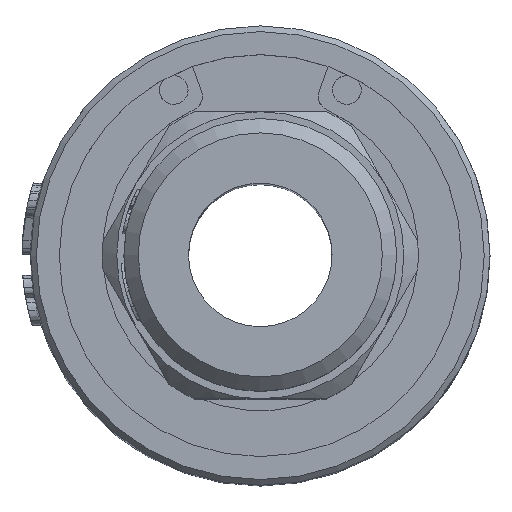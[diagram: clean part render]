
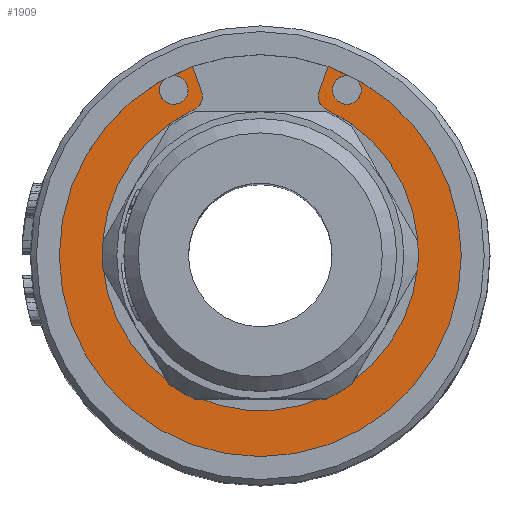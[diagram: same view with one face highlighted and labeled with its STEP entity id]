
A CAD part, top view. The second image highlights one B-rep face of the part: STEP entity #1909.
In plain terms, the highlighted planar face has unit normal (0, 0, 1).
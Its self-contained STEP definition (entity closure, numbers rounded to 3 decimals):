
#216=FACE_BOUND('',#5792,.T.);
#217=FACE_BOUND('',#5793,.T.);
#218=FACE_BOUND('',#5794,.T.);
#381=CIRCLE('',#21061,0.5);
#383=CIRCLE('',#21064,0.5);
#384=CIRCLE('',#21066,5.5);
#385=CIRCLE('',#21067,0.5);
#386=CIRCLE('',#21068,0.5);
#387=CIRCLE('',#21069,7.35);
#388=CIRCLE('',#21070,0.5);
#389=CIRCLE('',#21071,0.5);
#390=CIRCLE('',#21073,7.35);
#391=CIRCLE('',#21075,0.5);
#392=CIRCLE('',#21076,0.5);
#393=CIRCLE('',#21077,7.35);
#394=CIRCLE('',#21078,0.5);
#395=CIRCLE('',#21079,0.5);
#536=ELLIPSE('',#21072,7.35,6.5);
#537=ELLIPSE('',#21074,7.35,6.5);
#808=PLANE('',#21080);
#1095=LINE('',#38990,#3647);
#1096=LINE('',#38998,#3648);
#1097=LINE('',#39010,#3649);
#1098=LINE('',#39018,#3650);
#1909=ADVANCED_FACE('',(#216,#217,#218),#808,.F.);
#3647=VECTOR('',#22865,1.);
#3648=VECTOR('',#22872,1.);
#3649=VECTOR('',#22883,1.);
#3650=VECTOR('',#22890,1.);
#5792=EDGE_LOOP('',(#9783));
#5793=EDGE_LOOP('',(#9784,#9785,#9786,#9787,#9788,#9789,#9790,#9791,#9792,
#9793,#9794,#9795,#9796,#9797,#9798,#9799,#9800,#9801));
#5794=EDGE_LOOP('',(#9802));
#9783=ORIENTED_EDGE('',*,*,#16580,.T.);
#9784=ORIENTED_EDGE('',*,*,#16581,.F.);
#9785=ORIENTED_EDGE('',*,*,#16582,.T.);
#9786=ORIENTED_EDGE('',*,*,#16583,.T.);
#9787=ORIENTED_EDGE('',*,*,#16584,.T.);
#9788=ORIENTED_EDGE('',*,*,#16585,.F.);
#9789=ORIENTED_EDGE('',*,*,#16586,.T.);
#9790=ORIENTED_EDGE('',*,*,#16587,.T.);
#9791=ORIENTED_EDGE('',*,*,#16588,.T.);
#9792=ORIENTED_EDGE('',*,*,#16589,.F.);
#9793=ORIENTED_EDGE('',*,*,#16590,.F.);
#9794=ORIENTED_EDGE('',*,*,#16591,.T.);
#9795=ORIENTED_EDGE('',*,*,#16592,.F.);
#9796=ORIENTED_EDGE('',*,*,#16593,.F.);
#9797=ORIENTED_EDGE('',*,*,#16594,.F.);
#9798=ORIENTED_EDGE('',*,*,#16595,.T.);
#9799=ORIENTED_EDGE('',*,*,#16596,.F.);
#9800=ORIENTED_EDGE('',*,*,#16597,.F.);
#9801=ORIENTED_EDGE('',*,*,#16598,.F.);
#9802=ORIENTED_EDGE('',*,*,#16578,.F.);
#13812=VERTEX_POINT('',#38978);
#13814=VERTEX_POINT('',#38983);
#13815=VERTEX_POINT('',#38986);
#13816=VERTEX_POINT('',#38987);
#13817=VERTEX_POINT('',#38989);
#13818=VERTEX_POINT('',#38991);
#13819=VERTEX_POINT('',#38993);
#13820=VERTEX_POINT('',#38995);
#13821=VERTEX_POINT('',#38997);
#13822=VERTEX_POINT('',#38999);
#13823=VERTEX_POINT('',#39001);
#13824=VERTEX_POINT('',#39003);
#13825=VERTEX_POINT('',#39005);
#13826=VERTEX_POINT('',#39007);
#13827=VERTEX_POINT('',#39009);
#13828=VERTEX_POINT('',#39011);
#13829=VERTEX_POINT('',#39013);
#13830=VERTEX_POINT('',#39015);
#13831=VERTEX_POINT('',#39017);
#13832=VERTEX_POINT('',#39019);
#16578=EDGE_CURVE('',#13812,#13812,#381,.T.);
#16580=EDGE_CURVE('',#13814,#13814,#383,.T.);
#16581=EDGE_CURVE('',#13815,#13816,#384,.T.);
#16582=EDGE_CURVE('',#13815,#13817,#385,.T.);
#16583=EDGE_CURVE('',#13817,#13818,#1095,.T.);
#16584=EDGE_CURVE('',#13818,#13819,#386,.T.);
#16585=EDGE_CURVE('',#13820,#13819,#387,.T.);
#16586=EDGE_CURVE('',#13820,#13821,#388,.T.);
#16587=EDGE_CURVE('',#13821,#13822,#1096,.T.);
#16588=EDGE_CURVE('',#13822,#13823,#389,.T.);
#16589=EDGE_CURVE('',#13824,#13823,#536,.T.);
#16590=EDGE_CURVE('',#13825,#13824,#390,.T.);
#16591=EDGE_CURVE('',#13825,#13826,#537,.T.);
#16592=EDGE_CURVE('',#13827,#13826,#391,.T.);
#16593=EDGE_CURVE('',#13828,#13827,#1097,.T.);
#16594=EDGE_CURVE('',#13829,#13828,#392,.T.);
#16595=EDGE_CURVE('',#13829,#13830,#393,.T.);
#16596=EDGE_CURVE('',#13831,#13830,#394,.T.);
#16597=EDGE_CURVE('',#13832,#13831,#1098,.T.);
#16598=EDGE_CURVE('',#13816,#13832,#395,.T.);
#21061=AXIS2_PLACEMENT_3D('',#38977,#22851,#22852);
#21064=AXIS2_PLACEMENT_3D('',#38982,#22857,#22858);
#21066=AXIS2_PLACEMENT_3D('',#38985,#22861,#22862);
#21067=AXIS2_PLACEMENT_3D('',#38988,#22863,#22864);
#21068=AXIS2_PLACEMENT_3D('',#38992,#22866,#22867);
#21069=AXIS2_PLACEMENT_3D('',#38994,#22868,#22869);
#21070=AXIS2_PLACEMENT_3D('',#38996,#22870,#22871);
#21071=AXIS2_PLACEMENT_3D('',#39000,#22873,#22874);
#21072=AXIS2_PLACEMENT_3D('',#39002,#22875,#22876);
#21073=AXIS2_PLACEMENT_3D('',#39004,#22877,#22878);
#21074=AXIS2_PLACEMENT_3D('',#39006,#22879,#22880);
#21075=AXIS2_PLACEMENT_3D('',#39008,#22881,#22882);
#21076=AXIS2_PLACEMENT_3D('',#39012,#22884,#22885);
#21077=AXIS2_PLACEMENT_3D('',#39014,#22886,#22887);
#21078=AXIS2_PLACEMENT_3D('',#39016,#22888,#22889);
#21079=AXIS2_PLACEMENT_3D('',#39020,#22891,#22892);
#21080=AXIS2_PLACEMENT_3D('',#39021,#22893,#22894);
#22851=DIRECTION('',(0.,0.,1.));
#22852=DIRECTION('',(1.,0.,0.));
#22857=DIRECTION('',(0.,0.,-1.));
#22858=DIRECTION('',(-1.,0.,0.));
#22861=DIRECTION('',(0.,0.,1.));
#22862=DIRECTION('',(-1.,0.,0.));
#22863=DIRECTION('',(0.,0.,1.));
#22864=DIRECTION('',(-1.,0.,0.));
#22865=DIRECTION('',(-0.342,0.94,0.));
#22866=DIRECTION('',(0.,0.,1.));
#22867=DIRECTION('',(-1.,0.,0.));
#22868=DIRECTION('',(0.,0.,-1.));
#22869=DIRECTION('',(1.,0.,0.));
#22870=DIRECTION('',(0.,0.,1.));
#22871=DIRECTION('',(-1.,0.,0.));
#22872=DIRECTION('',(0.,-1.,0.));
#22873=DIRECTION('',(0.,0.,-1.));
#22874=DIRECTION('',(-1.,0.,0.));
#22875=DIRECTION('',(0.,0.,-1.));
#22876=DIRECTION('',(1.,0.,0.));
#22877=DIRECTION('',(0.,0.,-1.));
#22878=DIRECTION('',(-1.,0.,0.));
#22879=DIRECTION('',(0.,0.,1.));
#22880=DIRECTION('',(-1.,0.,0.));
#22881=DIRECTION('',(0.,0.,1.));
#22882=DIRECTION('',(1.,0.,0.));
#22883=DIRECTION('',(0.,-1.,0.));
#22884=DIRECTION('',(0.,0.,-1.));
#22885=DIRECTION('',(1.,0.,0.));
#22886=DIRECTION('',(0.,0.,1.));
#22887=DIRECTION('',(-1.,0.,0.));
#22888=DIRECTION('',(0.,0.,-1.));
#22889=DIRECTION('',(1.,0.,0.));
#22890=DIRECTION('',(0.342,0.94,0.));
#22891=DIRECTION('',(0.,0.,-1.));
#22892=DIRECTION('',(1.,0.,0.));
#22893=DIRECTION('',(0.,0.,-1.));
#22894=DIRECTION('',(-1.,0.,0.));
#38977=CARTESIAN_POINT('',(3.016,5.773,22.4));
#38978=CARTESIAN_POINT('',(3.516,5.773,22.4));
#38982=CARTESIAN_POINT('',(-3.016,5.773,22.4));
#38983=CARTESIAN_POINT('',(-3.516,5.773,22.4));
#38985=CARTESIAN_POINT('',(0.,0.1,22.4));
#38986=CARTESIAN_POINT('',(-2.305,5.094,22.4));
#38987=CARTESIAN_POINT('',(2.305,5.094,22.4));
#38988=CARTESIAN_POINT('',(-2.515,5.548,22.4));
#38989=CARTESIAN_POINT('',(-2.045,5.719,22.4));
#38990=CARTESIAN_POINT('',(0.,0.1,22.4));
#38991=CARTESIAN_POINT('',(-2.337,6.52,22.4));
#38992=CARTESIAN_POINT('',(-2.806,6.349,22.4));
#38993=CARTESIAN_POINT('',(-3.011,6.805,22.4));
#38994=CARTESIAN_POINT('',(0.,0.1,22.4));
#38995=CARTESIAN_POINT('',(-5.04,5.45,22.4));
#38996=CARTESIAN_POINT('',(-4.697,5.086,22.4));
#38997=CARTESIAN_POINT('',(-5.197,5.086,22.4));
#38998=CARTESIAN_POINT('',(-5.197,0.1,22.4));
#38999=CARTESIAN_POINT('',(-5.197,4.917,22.4));
#39000=CARTESIAN_POINT('',(-5.697,4.917,22.4));
#39001=CARTESIAN_POINT('',(-5.355,4.553,22.4));
#39002=CARTESIAN_POINT('',(0.,0.1,22.4));
#39003=CARTESIAN_POINT('',(-7.35,0.1,22.4));
#39004=CARTESIAN_POINT('',(0.,0.1,22.4));
#39005=CARTESIAN_POINT('',(7.35,0.1,22.4));
#39006=CARTESIAN_POINT('',(0.,0.1,22.4));
#39007=CARTESIAN_POINT('',(5.355,4.553,22.4));
#39008=CARTESIAN_POINT('',(5.697,4.917,22.4));
#39009=CARTESIAN_POINT('',(5.197,4.917,22.4));
#39010=CARTESIAN_POINT('',(5.197,0.1,22.4));
#39011=CARTESIAN_POINT('',(5.197,5.086,22.4));
#39012=CARTESIAN_POINT('',(4.697,5.086,22.4));
#39013=CARTESIAN_POINT('',(5.04,5.45,22.4));
#39014=CARTESIAN_POINT('',(0.,0.1,22.4));
#39015=CARTESIAN_POINT('',(3.011,6.805,22.4));
#39016=CARTESIAN_POINT('',(2.806,6.349,22.4));
#39017=CARTESIAN_POINT('',(2.337,6.52,22.4));
#39018=CARTESIAN_POINT('',(0.,0.1,22.4));
#39019=CARTESIAN_POINT('',(2.045,5.719,22.4));
#39020=CARTESIAN_POINT('',(2.515,5.548,22.4));
#39021=CARTESIAN_POINT('',(0.,0.1,22.4));
